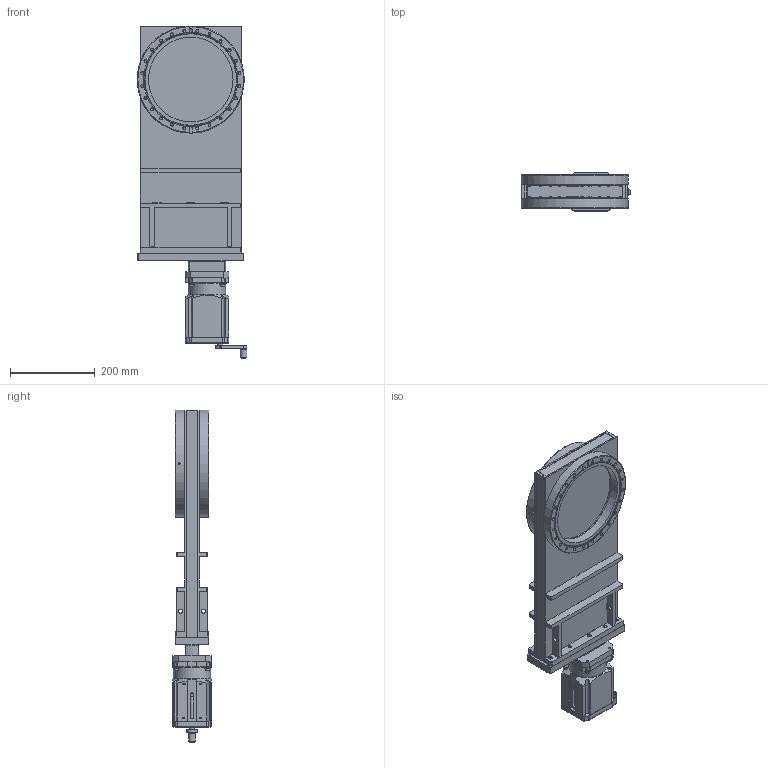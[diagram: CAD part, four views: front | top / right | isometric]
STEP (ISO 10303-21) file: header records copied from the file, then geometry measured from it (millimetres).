
FILE_DESCRIPTION(/* description */ (''),/* implementation_level */ '2;1');
FILE_NAME(/* name */ '1324420144_203.stp',/* time_stamp */ '2017-07-11T15:44:15+02:00',/* author */ (''),/* organization */ (''),/* preprocessor_version */ 'ST-DEVELOPER v15',/* originating_system */ 'SIEMENS PLM Software NX 9.0',/* authorisation */ '');
FILE_SCHEMA (('AP203_CONFIGURATION_CONTROLLED_3D_DESIGN_OF_MECHANICAL_PARTS_AND_ASSEMBLIES_MIM_LF { 1 0 10303 403 2 1 2}'));
Length unit declared in the file: millimetre
Products named in the file (42): n-6005-790; N-6198-006.1; N-5054-012.1; 78964-01.1; 78965-01.1; 79163-01.1; 834044_36419ID; 834044_36438ID; 834044_36437ID; 834044_36436ID; 834046_36435ID; 834046_36434ID; 834046_36433ID; 834046_36432ID; 834014_36430ID; 834014_36429ID; 834006_36427ID; 834001_36425ID; 834001_36424ID; 833986_36422ID; 833986_36421ID; 79156-01.2; n-6099-458.1; 79151-01.2; 205446.1; 206693-01.1; n-6099-511.1; 25838-01_1.1_36415ID; 25838-01_1.1_36360ID; 224811.1; 79157-01.2; 65313-01.1; 570870; 74628-01.3; 69130-01.2; 778871; 224810_MODEL; 79162-R1.1; 207954.1; 834047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
Assembly tree (60 placements, depth 4):
  899278
    889790
      834047
        833986_36421ID
        833986_36422ID
        834001_36424ID
        834001_36425ID
        834006_36427ID
        834014_36429ID
        834014_36430ID
        834046_36432ID
        834046_36433ID
        834046_36434ID
        834046_36435ID
        834044_36436ID
        834044_36437ID
        834044_36438ID
        834044_36419ID
      25838-01_1.1_36360ID
      25838-01_1.1_36415ID
      n-6099-511.1  x2
    778871  x10
    69130-01.2
    74628-01.3
    570870
    65313-01.1
    79157-01.2  x4
    224811.1  x4
    207954.1
      79162-R1.1
        79163-01.1
        78965-01.1
        78964-01.1
        N-5054-012.1
        N-6198-006.1
      206693-01.1
      205446.1
      224810_MODEL  x4
        n-6005-790
      79151-01.2
      n-6099-458.1
      79156-01.2
Bounding box: 259.1 x 90 x 785.25 mm (x, y, z)
Volume: 4061843.4 mm3; surface area: 1081210.2 mm2
Topology: 78 solids, 90 shells, 1880 faces, 4760 edges, 3146 vertices
Faces by surface type: plane 1143, cylinder 446, cone 133, extrusion 112, torus 45, bspline 1
Full cylindrical faces by diameter (mm): 2.1 x1, 2.8 x1, 3 x1, 3.3 x4, 4 x5, 4.35 x5, 4.5 x2, 4.625 x2, 4.96 x8, 5 x16, 5.4 x2, 5.85 x1, 5.97 x1, 5.994 x2, 6 x22, 6.1 x1, 6.15 x1, 6.45 x8, 7 x1, 7.01 x48, 7.1 x1, 8 x2, 8.25 x4, 8.3 x1, 8.36 x10, 8.4 x10, 8.45 x2, 8.5 x15, 8.75 x4, 8.982 x1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
Entity records: 56931 total; most frequent: CARTESIAN_POINT 14111, ORIENTED_EDGE 7374, DIRECTION 6899, EDGE_CURVE 3687, VERTEX_POINT 2674, AXIS2_PLACEMENT_3D 2311, VECTOR 2277, LINE 2165
